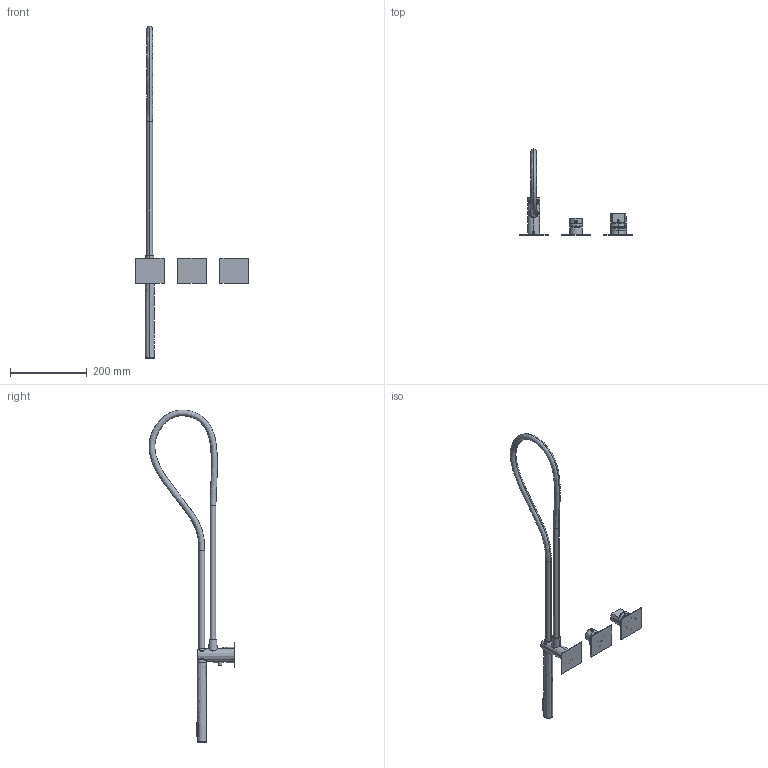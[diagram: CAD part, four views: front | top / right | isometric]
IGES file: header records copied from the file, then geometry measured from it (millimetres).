
Start section:  PTC IGES file: 89569v3.igs
Global section: file name: 89569v3.igs; native system: Creo Parametric by PTC Inc.; preprocessor: 2022014; author: carloff; organization: Unknown; date: 20251121.143051; units: millimetre
Bounding box: 295 x 223.09 x 863.13 mm (x, y, z)
Surface area: 162382.3 mm2 (no closed solid volume)
Topology: 0 solids, 0 shells, 785 faces, 4038 edges, 4026 vertices
Faces by surface type: revolution 475, bspline 310
